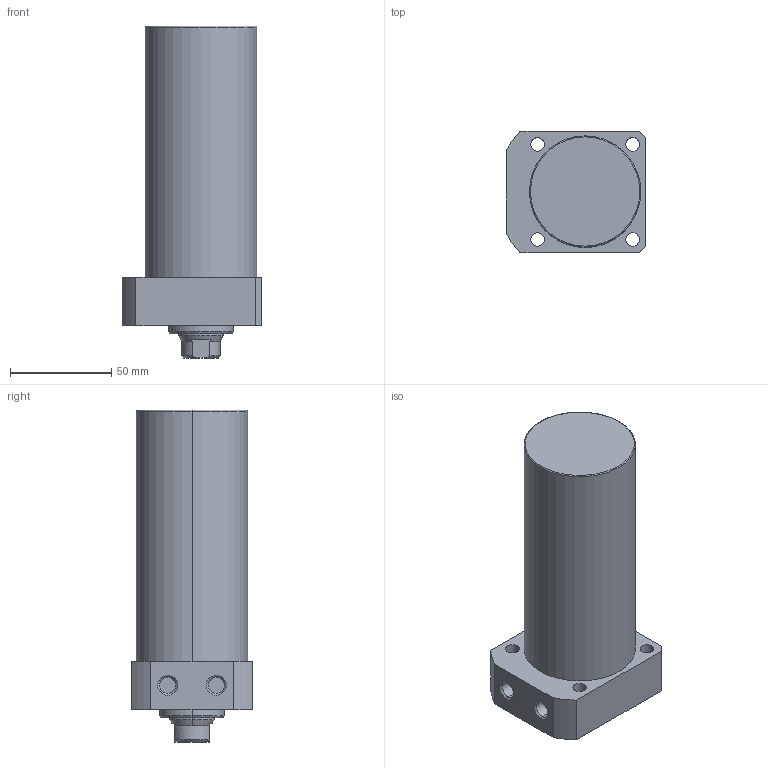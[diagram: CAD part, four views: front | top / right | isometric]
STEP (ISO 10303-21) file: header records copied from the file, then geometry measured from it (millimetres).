
FILE_DESCRIPTION (( 'STEP AP203' ), '1' );
FILE_NAME ('CLLR055-CA-095.STEP', '2017-05-16T03:39:56', ( '' ), ( '' ), 'SwSTEP 2.0', 'SolidWorks 2015', '' );
FILE_SCHEMA (( 'CONFIG_CONTROL_DESIGN' ));
Length unit declared in the file: millimetre
Products named in the file (1): CLLR055-CA-095
Bounding box: 69 x 60 x 164 mm (x, y, z)
Volume: 392230.3 mm3; surface area: 39712.7 mm2
Topology: 1 solids, 1 shells, 65 faces, 150 edges, 93 vertices
Faces by surface type: cylinder 29, plane 19, cone 15, torus 2
Entity records: 1959 total; most frequent: DIRECTION 348, CARTESIAN_POINT 347, ORIENTED_EDGE 296, EDGE_CURVE 148, AXIS2_PLACEMENT_3D 142, VERTEX_POINT 93, EDGE_LOOP 81, CIRCLE 76
